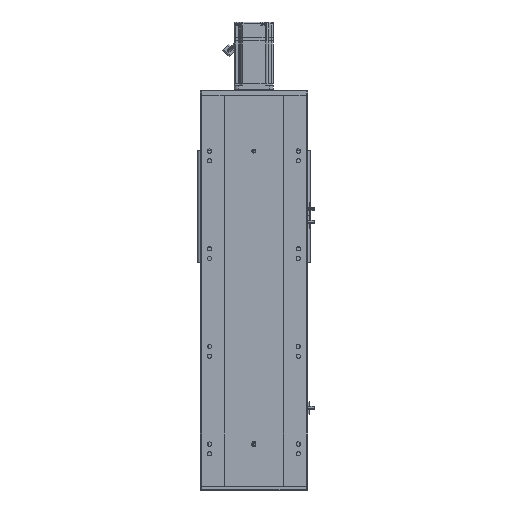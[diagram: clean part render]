
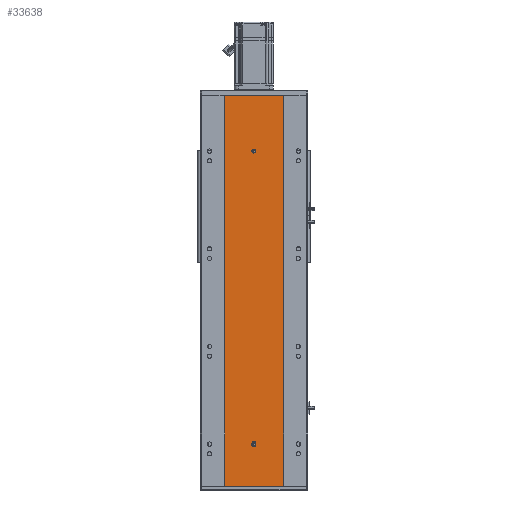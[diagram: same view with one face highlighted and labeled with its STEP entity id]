
A CAD part, front view. The second image highlights one B-rep face of the part: STEP entity #33638.
In plain terms, the highlighted planar face has unit normal (0, -1, 0).
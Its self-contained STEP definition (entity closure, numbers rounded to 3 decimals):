
#232 = CARTESIAN_POINT ( 'NONE',  ( -60., 0., 800. ) ) ;
#264 = VERTEX_POINT ( 'NONE', #6165 ) ;
#1005 = DIRECTION ( 'NONE',  ( 0., -1., 0. ) ) ;
#1952 = LINE ( 'NONE', #58012, #17627 ) ;
#2985 = CARTESIAN_POINT ( 'NONE',  ( 0., 0., 686. ) ) ;
#3224 = AXIS2_PLACEMENT_3D ( 'NONE', #45244, #50149, #24123 ) ;
#3624 = VECTOR ( 'NONE', #51874, 1000. ) ;
#4127 = EDGE_CURVE ( 'NONE', #16612, #42707, #47035, .T. ) ;
#4882 = CARTESIAN_POINT ( 'NONE',  ( -4., 0., 84.5 ) ) ;
#6165 = CARTESIAN_POINT ( 'NONE',  ( 0., 0., 690. ) ) ;
#6684 = ORIENTED_EDGE ( 'NONE', *, *, #13960, .F. ) ;
#7379 = DIRECTION ( 'NONE',  ( 0., 0., -1. ) ) ;
#8104 = CARTESIAN_POINT ( 'NONE',  ( 60., 0., 0. ) ) ;
#9222 = EDGE_CURVE ( 'NONE', #33358, #18029, #18321, .T. ) ;
#9416 = EDGE_CURVE ( 'NONE', #27496, #33358, #48261, .T. ) ;
#9575 = AXIS2_PLACEMENT_3D ( 'NONE', #23914, #29231, #61725 ) ;
#10282 = EDGE_CURVE ( 'NONE', #264, #14866, #48130, .T. ) ;
#11933 = FACE_BOUND ( 'NONE', #22488, .T. ) ;
#12299 = ORIENTED_EDGE ( 'NONE', *, *, #9416, .F. ) ;
#13960 = EDGE_CURVE ( 'NONE', #14866, #264, #61795, .T. ) ;
#14684 = DIRECTION ( 'NONE',  ( 0., -1., 0. ) ) ;
#14866 = VERTEX_POINT ( 'NONE', #48976 ) ;
#15579 = DIRECTION ( 'NONE',  ( 0., 1., 0. ) ) ;
#15735 = ORIENTED_EDGE ( 'NONE', *, *, #4127, .F. ) ;
#16022 = LINE ( 'NONE', #57866, #3624 ) ;
#16030 = DIRECTION ( 'NONE',  ( 0., 0., 1. ) ) ;
#16612 = VERTEX_POINT ( 'NONE', #31879 ) ;
#17457 = ORIENTED_EDGE ( 'NONE', *, *, #48853, .F. ) ;
#17575 = CARTESIAN_POINT ( 'NONE',  ( 0., 0., 84.5 ) ) ;
#17627 = VECTOR ( 'NONE', #46673, 1000. ) ;
#18029 = VERTEX_POINT ( 'NONE', #40869 ) ;
#18071 = CARTESIAN_POINT ( 'NONE',  ( 4., 0., 84.5 ) ) ;
#18321 = CIRCLE ( 'NONE', #3224, 4. ) ;
#18771 = CARTESIAN_POINT ( 'NONE',  ( -60., 0., 800. ) ) ;
#21159 = VERTEX_POINT ( 'NONE', #8104 ) ;
#22488 = EDGE_LOOP ( 'NONE', ( #15735, #26361, #62409, #12299, #66909 ) ) ;
#22510 = EDGE_CURVE ( 'NONE', #63122, #21159, #51794, .T. ) ;
#23058 = EDGE_LOOP ( 'NONE', ( #6684, #41864 ) ) ;
#23914 = CARTESIAN_POINT ( 'NONE',  ( 0., 0., 87.5 ) ) ;
#23989 = AXIS2_PLACEMENT_3D ( 'NONE', #17575, #1005, #59831 ) ;
#24123 = DIRECTION ( 'NONE',  ( 0., 0., -1. ) ) ;
#24329 = FACE_OUTER_BOUND ( 'NONE', #56874, .T. ) ;
#24879 = CARTESIAN_POINT ( 'NONE',  ( 0., 0., 686. ) ) ;
#26361 = ORIENTED_EDGE ( 'NONE', *, *, #67915, .F. ) ;
#27496 = VERTEX_POINT ( 'NONE', #50767 ) ;
#28374 = CARTESIAN_POINT ( 'NONE',  ( -4., 0., 84.5 ) ) ;
#28646 = DIRECTION ( 'NONE',  ( 0., -1., 0. ) ) ;
#29231 = DIRECTION ( 'NONE',  ( 0., -1., 0. ) ) ;
#31216 = ORIENTED_EDGE ( 'NONE', *, *, #22510, .F. ) ;
#31301 = CARTESIAN_POINT ( 'NONE',  ( 4., 0., 87.5 ) ) ;
#31879 = CARTESIAN_POINT ( 'NONE',  ( 4., 0., 84.5 ) ) ;
#32729 = LINE ( 'NONE', #232, #41865 ) ;
#32809 = CIRCLE ( 'NONE', #23989, 4. ) ;
#33358 = VERTEX_POINT ( 'NONE', #28374 ) ;
#33638 = ADVANCED_FACE ( 'NONE', ( #49297, #11933, #24329 ), #62467, .F. ) ;
#33849 = DIRECTION ( 'NONE',  ( 0., 0., 1. ) ) ;
#34080 = VECTOR ( 'NONE', #47549, 1000. ) ;
#34343 = AXIS2_PLACEMENT_3D ( 'NONE', #24879, #14684, #68059 ) ;
#35984 = EDGE_CURVE ( 'NONE', #50691, #58261, #32729, .T. ) ;
#36371 = DIRECTION ( 'NONE',  ( 0., 0., -1. ) ) ;
#36755 = DIRECTION ( 'NONE',  ( 0., 0., -1. ) ) ;
#37130 = CARTESIAN_POINT ( 'NONE',  ( -60., 0., 800. ) ) ;
#40608 = ORIENTED_EDGE ( 'NONE', *, *, #35984, .T. ) ;
#40869 = CARTESIAN_POINT ( 'NONE',  ( 0., 0., 80.5 ) ) ;
#41864 = ORIENTED_EDGE ( 'NONE', *, *, #10282, .F. ) ;
#41865 = VECTOR ( 'NONE', #36755, 1000. ) ;
#42490 = AXIS2_PLACEMENT_3D ( 'NONE', #2985, #28646, #7379 ) ;
#42689 = VECTOR ( 'NONE', #36371, 1000. ) ;
#42707 = VERTEX_POINT ( 'NONE', #31301 ) ;
#43727 = VECTOR ( 'NONE', #33849, 1000. ) ;
#45244 = CARTESIAN_POINT ( 'NONE',  ( 0., 0., 84.5 ) ) ;
#46673 = DIRECTION ( 'NONE',  ( 1., 0., 0. ) ) ;
#47035 = LINE ( 'NONE', #18071, #43727 ) ;
#47549 = DIRECTION ( 'NONE',  ( 0., 0., -1. ) ) ;
#48130 = CIRCLE ( 'NONE', #34343, 4. ) ;
#48261 = LINE ( 'NONE', #4882, #34080 ) ;
#48853 = EDGE_CURVE ( 'NONE', #50691, #63122, #16022, .T. ) ;
#48976 = CARTESIAN_POINT ( 'NONE',  ( 0., 0., 682. ) ) ;
#49297 = FACE_BOUND ( 'NONE', #23058, .T. ) ;
#49366 = EDGE_CURVE ( 'NONE', #58261, #21159, #1952, .T. ) ;
#50149 = DIRECTION ( 'NONE',  ( 0., -1., 0. ) ) ;
#50691 = VERTEX_POINT ( 'NONE', #18771 ) ;
#50767 = CARTESIAN_POINT ( 'NONE',  ( -4., 0., 87.5 ) ) ;
#51794 = LINE ( 'NONE', #62618, #42689 ) ;
#51874 = DIRECTION ( 'NONE',  ( 1., 0., 0. ) ) ;
#53695 = EDGE_CURVE ( 'NONE', #42707, #27496, #67230, .T. ) ;
#56083 = CARTESIAN_POINT ( 'NONE',  ( -60., 0., 0. ) ) ;
#56874 = EDGE_LOOP ( 'NONE', ( #63149, #31216, #17457, #40608 ) ) ;
#57087 = AXIS2_PLACEMENT_3D ( 'NONE', #37130, #15579, #16030 ) ;
#57866 = CARTESIAN_POINT ( 'NONE',  ( -60., 0., 800. ) ) ;
#58012 = CARTESIAN_POINT ( 'NONE',  ( -60., 0., 0. ) ) ;
#58261 = VERTEX_POINT ( 'NONE', #56083 ) ;
#58730 = CARTESIAN_POINT ( 'NONE',  ( 60., 0., 800. ) ) ;
#59831 = DIRECTION ( 'NONE',  ( 0., 0., -1. ) ) ;
#61725 = DIRECTION ( 'NONE',  ( 0., 0., -1. ) ) ;
#61795 = CIRCLE ( 'NONE', #42490, 4. ) ;
#62409 = ORIENTED_EDGE ( 'NONE', *, *, #9222, .F. ) ;
#62467 = PLANE ( 'NONE',  #57087 ) ;
#62618 = CARTESIAN_POINT ( 'NONE',  ( 60., 0., 800. ) ) ;
#63122 = VERTEX_POINT ( 'NONE', #58730 ) ;
#63149 = ORIENTED_EDGE ( 'NONE', *, *, #49366, .T. ) ;
#66909 = ORIENTED_EDGE ( 'NONE', *, *, #53695, .F. ) ;
#67230 = CIRCLE ( 'NONE', #9575, 4. ) ;
#67915 = EDGE_CURVE ( 'NONE', #18029, #16612, #32809, .T. ) ;
#68059 = DIRECTION ( 'NONE',  ( 0., 0., -1. ) ) ;
